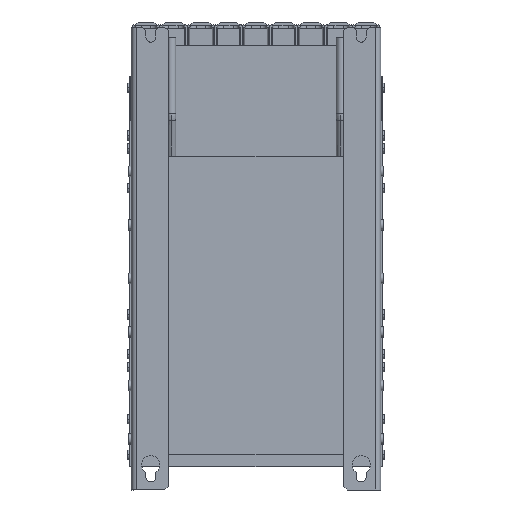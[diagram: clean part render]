
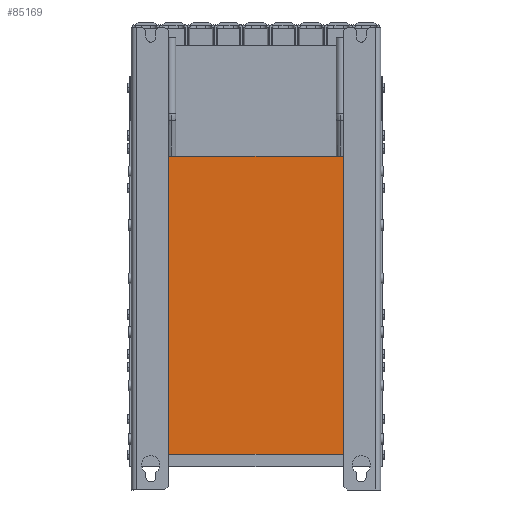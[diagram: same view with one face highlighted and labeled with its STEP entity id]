
A CAD part, front view. The second image highlights one B-rep face of the part: STEP entity #85169.
In plain terms, the highlighted planar face has unit normal (0, -1, 0).
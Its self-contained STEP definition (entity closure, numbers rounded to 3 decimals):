
#3016 = DIRECTION ( 'NONE',  ( -1., 0., 0. ) ) ;
#3892 = CARTESIAN_POINT ( 'NONE',  ( 160., -25., 12. ) ) ;
#9199 = VERTEX_POINT ( 'NONE', #71341 ) ;
#9370 = VECTOR ( 'NONE', #3016, 1000. ) ;
#10510 = VECTOR ( 'NONE', #72735, 1000. ) ;
#10982 = CARTESIAN_POINT ( 'NONE',  ( 163., -25., 402. ) ) ;
#14181 = PLANE ( 'NONE',  #21528 ) ;
#14265 = CARTESIAN_POINT ( 'NONE',  ( -160., -25., 12. ) ) ;
#15451 = EDGE_CURVE ( 'NONE', #77795, #40142, #47271, .T. ) ;
#16330 = EDGE_CURVE ( 'NONE', #77795, #19825, #21165, .T. ) ;
#19825 = VERTEX_POINT ( 'NONE', #39665 ) ;
#20807 = LINE ( 'NONE', #43482, #10510 ) ;
#21165 = LINE ( 'NONE', #74562, #68999 ) ;
#21528 = AXIS2_PLACEMENT_3D ( 'NONE', #44863, #60960, #98762 ) ;
#25901 = EDGE_LOOP ( 'NONE', ( #26214, #81904, #63902, #53884 ) ) ;
#26214 = ORIENTED_EDGE ( 'NONE', *, *, #30383, .T. ) ;
#26504 = EDGE_CURVE ( 'NONE', #19825, #9199, #63824, .T. ) ;
#30232 = FACE_OUTER_BOUND ( 'NONE', #25901, .T. ) ;
#30383 = EDGE_CURVE ( 'NONE', #9199, #40142, #20807, .T. ) ;
#31691 = CARTESIAN_POINT ( 'NONE',  ( 163., -25., 12. ) ) ;
#39665 = CARTESIAN_POINT ( 'NONE',  ( 160., -25., 402. ) ) ;
#40142 = VERTEX_POINT ( 'NONE', #14265 ) ;
#43482 = CARTESIAN_POINT ( 'NONE',  ( -160., -25., 12. ) ) ;
#43499 = VECTOR ( 'NONE', #77931, 1000. ) ;
#44863 = CARTESIAN_POINT ( 'NONE',  ( 163., -25., 728.957 ) ) ;
#47271 = LINE ( 'NONE', #31691, #9370 ) ;
#53884 = ORIENTED_EDGE ( 'NONE', *, *, #26504, .T. ) ;
#60960 = DIRECTION ( 'NONE',  ( 0., -1., 0. ) ) ;
#63824 = LINE ( 'NONE', #10982, #43499 ) ;
#63902 = ORIENTED_EDGE ( 'NONE', *, *, #16330, .T. ) ;
#68999 = VECTOR ( 'NONE', #88211, 1000. ) ;
#71341 = CARTESIAN_POINT ( 'NONE',  ( -160., -25., 402. ) ) ;
#72735 = DIRECTION ( 'NONE',  ( 0., 0., -1. ) ) ;
#74562 = CARTESIAN_POINT ( 'NONE',  ( 160., -25., 12. ) ) ;
#77795 = VERTEX_POINT ( 'NONE', #3892 ) ;
#77931 = DIRECTION ( 'NONE',  ( -1., 0., 0. ) ) ;
#81904 = ORIENTED_EDGE ( 'NONE', *, *, #15451, .F. ) ;
#85169 = ADVANCED_FACE ( 'NONE', ( #30232 ), #14181, .T. ) ;
#88211 = DIRECTION ( 'NONE',  ( 0., 0., 1. ) ) ;
#98762 = DIRECTION ( 'NONE',  ( 0., 0., -1. ) ) ;
